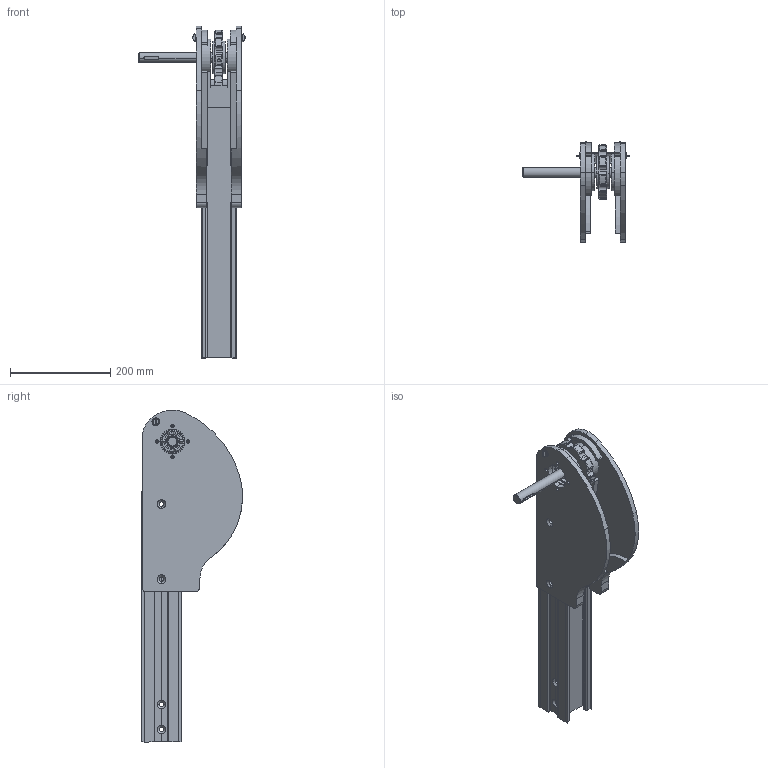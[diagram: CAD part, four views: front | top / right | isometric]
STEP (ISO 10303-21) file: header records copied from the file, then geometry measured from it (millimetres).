
FILE_DESCRIPTION (( 'STEP AP203' ), '1' );
FILE_NAME ('R1M-D20.STEP', '2008-11-24T14:41:30', ( 'faber' ), ( '' ), 'SwSTEP 2.0', 'SolidWorks 2008', '' );
FILE_SCHEMA (( 'CONFIG_CONTROL_DESIGN' ));
Length unit declared in the file: millimetre
Products named in the file (1): R1M-D20
Bounding box: 212.47 x 201.88 x 663 mm (x, y, z)
Surface area: 637430.5 mm2 (no closed solid volume)
Topology: 0 solids, 18 shells, 404 faces, 1456 edges, 1036 vertices
Faces by surface type: cylinder 185, plane 152, cone 46, bspline 21
Entity records: 17517 total; most frequent: CARTESIAN_POINT 5095, DIRECTION 2554, ORIENTED_EDGE 2470, EDGE_CURVE 1456, VERTEX_POINT 1036, AXIS2_PLACEMENT_3D 919, VECTOR 716, LINE 716
